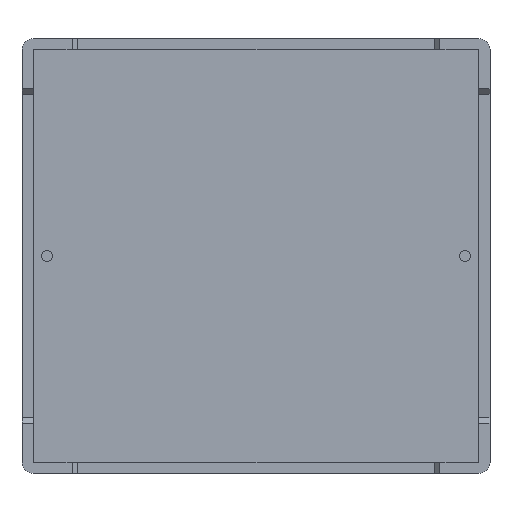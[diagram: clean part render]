
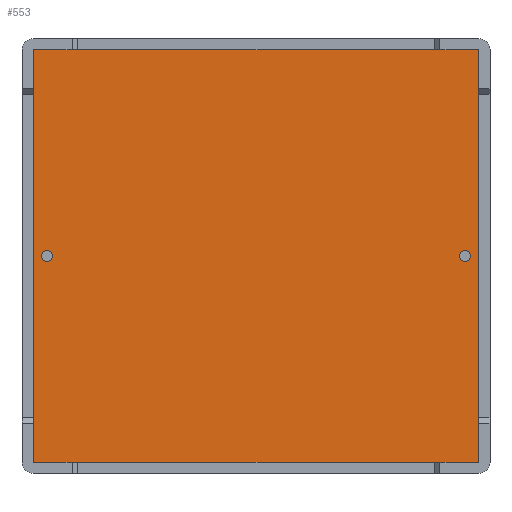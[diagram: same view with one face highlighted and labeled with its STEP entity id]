
A CAD part, front view. The second image highlights one B-rep face of the part: STEP entity #553.
In plain terms, the highlighted planar face has unit normal (0, -1, 0).
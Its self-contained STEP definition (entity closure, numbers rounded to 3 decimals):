
#52 = VERTEX_POINT ( 'NONE', #2486 ) ;
#71 = EDGE_CURVE ( 'NONE', #3964, #3888, #1192, .T. ) ;
#77 = CARTESIAN_POINT ( 'NONE',  ( -20., 1., -18.5 ) ) ;
#111 = AXIS2_PLACEMENT_3D ( 'NONE', #2757, #2744, #2718 ) ;
#119 = EDGE_CURVE ( 'NONE', #4158, #3884, #1075, .T. ) ;
#148 = EDGE_CURVE ( 'NONE', #52, #4058, #953, .T. ) ;
#188 = EDGE_CURVE ( 'NONE', #848, #3403, #728, .T. ) ;
#208 = EDGE_CURVE ( 'NONE', #981, #679, #659, .T. ) ;
#215 = EDGE_CURVE ( 'NONE', #1189, #1053, #605, .T. ) ;
#217 = EDGE_CURVE ( 'NONE', #3403, #52, #580, .T. ) ;
#221 = EDGE_CURVE ( 'NONE', #4058, #4158, #556, .T. ) ;
#222 = EDGE_CURVE ( 'NONE', #3884, #3964, #555, .T. ) ;
#227 = EDGE_CURVE ( 'NONE', #3888, #848, #524, .T. ) ;
#343 = AXIS2_PLACEMENT_3D ( 'NONE', #3235, #1315, #3530 ) ;
#366 = AXIS2_PLACEMENT_3D ( 'NONE', #2691, #2684, #2680 ) ;
#428 = CARTESIAN_POINT ( 'NONE',  ( 18.75, 1., 0. ) ) ;
#524 = CIRCLE ( 'NONE', #366, 0.1 ) ;
#553 = ADVANCED_FACE ( 'NONE', ( #1846, #1695, #1802 ), #4286, .T. ) ;
#555 = CIRCLE ( 'NONE', #111, 0.1 ) ;
#556 = CIRCLE ( 'NONE', #4234, 0.1 ) ;
#580 = CIRCLE ( 'NONE', #4055, 0.1 ) ;
#605 = CIRCLE ( 'NONE', #3874, 0.5 ) ;
#643 = VECTOR ( 'NONE', #3052, 1000. ) ;
#659 = CIRCLE ( 'NONE', #3695, 0.5 ) ;
#679 = VERTEX_POINT ( 'NONE', #3814 ) ;
#728 = LINE ( 'NONE', #3091, #643 ) ;
#848 = VERTEX_POINT ( 'NONE', #1772 ) ;
#891 = VECTOR ( 'NONE', #3305, 1000. ) ;
#901 = DIRECTION ( 'NONE',  ( 0., 0., 1. ) ) ;
#942 = DIRECTION ( 'NONE',  ( 0., 0., -1. ) ) ;
#953 = LINE ( 'NONE', #77, #891 ) ;
#981 = VERTEX_POINT ( 'NONE', #2009 ) ;
#1020 = CARTESIAN_POINT ( 'NONE',  ( 20., 1., -18.5 ) ) ;
#1024 = VECTOR ( 'NONE', #901, 1000. ) ;
#1053 = VERTEX_POINT ( 'NONE', #3010 ) ;
#1075 = LINE ( 'NONE', #1020, #1024 ) ;
#1154 = VECTOR ( 'NONE', #1456, 1000. ) ;
#1168 = AXIS2_PLACEMENT_3D ( 'NONE', #2980, #2920, #1872 ) ;
#1189 = VERTEX_POINT ( 'NONE', #3374 ) ;
#1192 = LINE ( 'NONE', #1595, #1154 ) ;
#1315 = DIRECTION ( 'NONE',  ( 0., -1., 0. ) ) ;
#1456 = DIRECTION ( 'NONE',  ( -1., 0., 0. ) ) ;
#1595 = CARTESIAN_POINT ( 'NONE',  ( 20., 1., 18.5 ) ) ;
#1620 = EDGE_CURVE ( 'NONE', #1053, #1189, #3860, .T. ) ;
#1695 = FACE_BOUND ( 'NONE', #1937, .T. ) ;
#1737 = CIRCLE ( 'NONE', #2190, 0.5 ) ;
#1772 = CARTESIAN_POINT ( 'NONE',  ( -20., 1., 18.4 ) ) ;
#1802 = FACE_OUTER_BOUND ( 'NONE', #2025, .T. ) ;
#1846 = FACE_BOUND ( 'NONE', #1989, .T. ) ;
#1872 = DIRECTION ( 'NONE',  ( 0., 0., -1. ) ) ;
#1937 = EDGE_LOOP ( 'NONE', ( #2424, #2432 ) ) ;
#1989 = EDGE_LOOP ( 'NONE', ( #2338, #2407 ) ) ;
#2009 = CARTESIAN_POINT ( 'NONE',  ( 18.75, 1., 0.5 ) ) ;
#2025 = EDGE_LOOP ( 'NONE', ( #2456, #2484, #2491, #2530, #2540, #2566, #2578, #2592 ) ) ;
#2190 = AXIS2_PLACEMENT_3D ( 'NONE', #428, #2987, #942 ) ;
#2218 = CARTESIAN_POINT ( 'NONE',  ( 19.9, 1., 18.5 ) ) ;
#2266 = CARTESIAN_POINT ( 'NONE',  ( 20., 1., -18.4 ) ) ;
#2338 = ORIENTED_EDGE ( 'NONE', *, *, #208, .F. ) ;
#2407 = ORIENTED_EDGE ( 'NONE', *, *, #2935, .F. ) ;
#2424 = ORIENTED_EDGE ( 'NONE', *, *, #215, .F. ) ;
#2432 = ORIENTED_EDGE ( 'NONE', *, *, #1620, .F. ) ;
#2456 = ORIENTED_EDGE ( 'NONE', *, *, #188, .T. ) ;
#2484 = ORIENTED_EDGE ( 'NONE', *, *, #217, .T. ) ;
#2486 = CARTESIAN_POINT ( 'NONE',  ( -19.9, 1., -18.5 ) ) ;
#2491 = ORIENTED_EDGE ( 'NONE', *, *, #148, .T. ) ;
#2530 = ORIENTED_EDGE ( 'NONE', *, *, #221, .T. ) ;
#2540 = ORIENTED_EDGE ( 'NONE', *, *, #119, .T. ) ;
#2566 = ORIENTED_EDGE ( 'NONE', *, *, #222, .T. ) ;
#2578 = ORIENTED_EDGE ( 'NONE', *, *, #71, .T. ) ;
#2592 = ORIENTED_EDGE ( 'NONE', *, *, #227, .T. ) ;
#2680 = DIRECTION ( 'NONE',  ( 0., 0., -1. ) ) ;
#2684 = DIRECTION ( 'NONE',  ( 0., -1., 0. ) ) ;
#2691 = CARTESIAN_POINT ( 'NONE',  ( -19.9, 1., 18.4 ) ) ;
#2718 = DIRECTION ( 'NONE',  ( 0., 0., -1. ) ) ;
#2744 = DIRECTION ( 'NONE',  ( 0., -1., 0. ) ) ;
#2757 = CARTESIAN_POINT ( 'NONE',  ( 19.9, 1., 18.4 ) ) ;
#2764 = CARTESIAN_POINT ( 'NONE',  ( -20., 1., -18.4 ) ) ;
#2776 = DIRECTION ( 'NONE',  ( 0., 0., -1. ) ) ;
#2777 = DIRECTION ( 'NONE',  ( 0., -1., 0. ) ) ;
#2785 = CARTESIAN_POINT ( 'NONE',  ( 19.9, 1., -18.4 ) ) ;
#2836 = DIRECTION ( 'NONE',  ( 0., 0., -1. ) ) ;
#2843 = DIRECTION ( 'NONE',  ( 0., -1., 0. ) ) ;
#2845 = CARTESIAN_POINT ( 'NONE',  ( -19.9, 1., -18.4 ) ) ;
#2902 = DIRECTION ( 'NONE',  ( 0., 0., -1. ) ) ;
#2917 = DIRECTION ( 'NONE',  ( 0., -1., 0. ) ) ;
#2918 = CARTESIAN_POINT ( 'NONE',  ( -18.75, 1., 0. ) ) ;
#2920 = DIRECTION ( 'NONE',  ( 0., -1., 0. ) ) ;
#2930 = DIRECTION ( 'NONE',  ( 0., 0., -1. ) ) ;
#2935 = EDGE_CURVE ( 'NONE', #679, #981, #1737, .T. ) ;
#2940 = DIRECTION ( 'NONE',  ( 0., -1., 0. ) ) ;
#2944 = CARTESIAN_POINT ( 'NONE',  ( 18.75, 1., 0. ) ) ;
#2980 = CARTESIAN_POINT ( 'NONE',  ( 0., 1., 0. ) ) ;
#2987 = DIRECTION ( 'NONE',  ( 0., -1., 0. ) ) ;
#3010 = CARTESIAN_POINT ( 'NONE',  ( -18.75, 1., -0.5 ) ) ;
#3052 = DIRECTION ( 'NONE',  ( 0., 0., -1. ) ) ;
#3091 = CARTESIAN_POINT ( 'NONE',  ( -20., 1., 18.5 ) ) ;
#3235 = CARTESIAN_POINT ( 'NONE',  ( -18.75, 1., 0. ) ) ;
#3305 = DIRECTION ( 'NONE',  ( 1., 0., 0. ) ) ;
#3374 = CARTESIAN_POINT ( 'NONE',  ( -18.75, 1., 0.5 ) ) ;
#3403 = VERTEX_POINT ( 'NONE', #2764 ) ;
#3412 = CARTESIAN_POINT ( 'NONE',  ( -19.9, 1., 18.5 ) ) ;
#3445 = CARTESIAN_POINT ( 'NONE',  ( 19.9, 1., -18.5 ) ) ;
#3530 = DIRECTION ( 'NONE',  ( 0., 0., -1. ) ) ;
#3695 = AXIS2_PLACEMENT_3D ( 'NONE', #2944, #2940, #2930 ) ;
#3703 = CARTESIAN_POINT ( 'NONE',  ( 20., 1., 18.4 ) ) ;
#3814 = CARTESIAN_POINT ( 'NONE',  ( 18.75, 1., -0.5 ) ) ;
#3860 = CIRCLE ( 'NONE', #343, 0.5 ) ;
#3874 = AXIS2_PLACEMENT_3D ( 'NONE', #2918, #2917, #2902 ) ;
#3884 = VERTEX_POINT ( 'NONE', #3703 ) ;
#3888 = VERTEX_POINT ( 'NONE', #3412 ) ;
#3964 = VERTEX_POINT ( 'NONE', #2218 ) ;
#4055 = AXIS2_PLACEMENT_3D ( 'NONE', #2845, #2843, #2836 ) ;
#4058 = VERTEX_POINT ( 'NONE', #3445 ) ;
#4158 = VERTEX_POINT ( 'NONE', #2266 ) ;
#4234 = AXIS2_PLACEMENT_3D ( 'NONE', #2785, #2777, #2776 ) ;
#4286 = PLANE ( 'NONE',  #1168 ) ;
